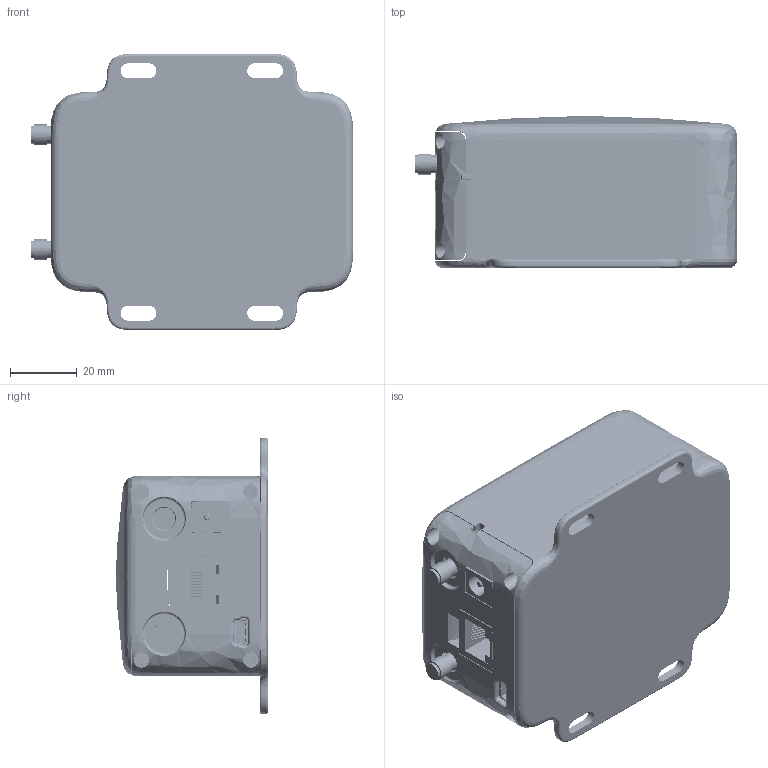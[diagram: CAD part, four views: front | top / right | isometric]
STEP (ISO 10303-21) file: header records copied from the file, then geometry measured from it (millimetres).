
FILE_DESCRIPTION (( 'STEP AP214' ), '1' );
FILE_NAME ('1001443_NL-AB-BBCL_Enclosure_STEP.STEP', '2017-06-09T02:47:58', ( '' ), ( '' ), 'SwSTEP 2.0', 'SolidWorks 2017', '' );
FILE_SCHEMA (( 'AUTOMOTIVE_DESIGN' ));
Length unit declared in the file: inch
Products named in the file (146): R37; 951110-2530-AR_1; 493865232; Cylinder_2; R11; R21; M22-71310_MOULD; 493868432; C8; Extruded_9; R0603_0_OHM_1; D3; R13; xbeecdma8e_1; J4; 1001443_NL-AB-BBCL_Enclosure_STEP; BBBC2; Cylinder_4; C3; D4; Extruded_15; m22-7131042_asm; J8; Extruded_5; R6; Extruded_8; C0603_01UF_1; C14; R16; C6; TSSOP_65M_20P_W66_L66_MISC_1; R27; R0402_SMLR_TEST_56PF_1; J2; M22-713_CONTACT; C16; J10; C17; LED_0805_CA_GREEN_1; R9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
Assembly tree (252 placements, depth 5):
  1001443_NL-AB-BBCL_Enclosure_STEP
    1001443_NL-AB-BBCL_Enclosure_SLD
    20057_RevA_3DModel
      Board
      C8
        RES0603
      R6
        RES0603
      R2
        RES0603
      C2
        1115471056
          Extruded
        1115471184  x2
          Extruded_2
      C1
        1115471056
          Extruded
        1115471184  x2
          Extruded_2
      L1
        493843600
          Extruded_3
      L2
        493843600
          Extruded_3
      R41
        RES0603
      R39
        RES0603
      R35
        RES0603
      R37
        RES0603
      R33
        RES0603
      R31
        RES0603
      J13
        _____C023DFAN-RC
      R30
        RES0603
      R29
        RES0603
      SW1
        TL3330AFxxxQG
          TL3330_Housing
          TL3330_Cover_Plate
          TL3330_Actuator
      C21
        RES0603
      C18
        RES0603
      C17
        RES0603
      C6
        RES0603
      C7
        RES0603
      C5
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Bounding box: 96.93 x 45.72 x 83.06 mm (x, y, z)
Volume: 65225.2 mm3; surface area: 104702.2 mm2
Topology: 319 solids, 952 shells, 17858 faces, 47584 edges, 31514 vertices
Faces by surface type: plane 14153, cylinder 2828, bspline 775, cone 88, torus 14
Full cylindrical faces by diameter (mm): 0.381 x45, 0.406 x24, 0.5 x3, 0.508 x8, 0.6 x2, 0.711 x8, 0.762 x8, 0.8 x42, 0.9 x2, 0.92 x4, 1.016 x114, 1.02 x92, 1.5 x4, 1.6 x2, 1.651 x8, 1.7 x3, 1.86 x3, 1.9 x1, 1.905 x4, 2 x8, 2.413 x2, 2.667 x4, 3.048 x4, 3.175 x6, 3.251 x2, 3.6 x1, 3.683 x2, 4.623 x4, 5.283 x2, 6.18 x1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
Entity records: 507398 total; most frequent: CARTESIAN_POINT 111020, ORIENTED_EDGE 68043, DIRECTION 61332, EDGE_CURVE 35252, VECTOR 29320, LINE 29320, VERTEX_POINT 23983, AXIS2_PLACEMENT_3D 16006
